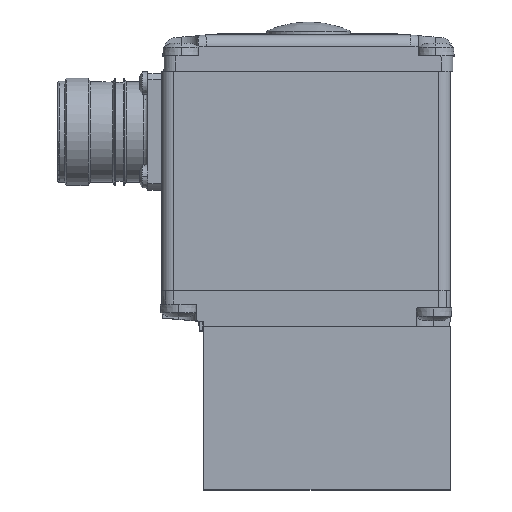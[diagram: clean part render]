
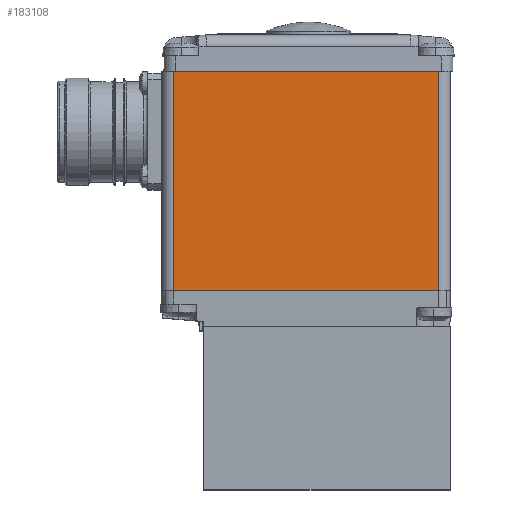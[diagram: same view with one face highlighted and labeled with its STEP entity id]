
A CAD part, top view. The second image highlights one B-rep face of the part: STEP entity #183108.
In plain terms, the highlighted planar face has unit normal (0, 0, 1).
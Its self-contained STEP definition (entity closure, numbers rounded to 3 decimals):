
#2480 = VERTEX_POINT ( 'NONE', #54425 ) ;
#3549 = LINE ( 'NONE', #109128, #82305 ) ;
#17185 = DIRECTION ( 'NONE',  ( -1., 0., 0. ) ) ;
#28622 = ORIENTED_EDGE ( 'NONE', *, *, #60435, .F. ) ;
#31355 = FACE_OUTER_BOUND ( 'NONE', #42933, .T. ) ;
#33002 = CARTESIAN_POINT ( 'NONE',  ( -2.5, 25.3, 17.65 ) ) ;
#36058 = CARTESIAN_POINT ( 'NONE',  ( -59.5, 72.3, 17.65 ) ) ;
#42698 = LINE ( 'NONE', #107771, #126537 ) ;
#42933 = EDGE_LOOP ( 'NONE', ( #28622, #168672, #110241, #158465 ) ) ;
#47148 = DIRECTION ( 'NONE',  ( 0., -1., 0. ) ) ;
#50390 = CARTESIAN_POINT ( 'NONE',  ( -59.5, 25.3, 17.65 ) ) ;
#51260 = PLANE ( 'NONE',  #124068 ) ;
#51932 = DIRECTION ( 'NONE',  ( 1., 0., 0. ) ) ;
#54425 = CARTESIAN_POINT ( 'NONE',  ( -59.5, 72.3, 17.65 ) ) ;
#60435 = EDGE_CURVE ( 'NONE', #195137, #120860, #196035, .T. ) ;
#75396 = DIRECTION ( 'NONE',  ( 0., -1., 0. ) ) ;
#79356 = VERTEX_POINT ( 'NONE', #84965 ) ;
#82305 = VECTOR ( 'NONE', #47148, 1000. ) ;
#84965 = CARTESIAN_POINT ( 'NONE',  ( -2.5, 72.3, 17.65 ) ) ;
#86314 = CARTESIAN_POINT ( 'NONE',  ( -59.5, 25.3, 17.65 ) ) ;
#88600 = EDGE_CURVE ( 'NONE', #79356, #195137, #42698, .T. ) ;
#88944 = VECTOR ( 'NONE', #17185, 1000. ) ;
#107771 = CARTESIAN_POINT ( 'NONE',  ( -2.5, 72.3, 17.65 ) ) ;
#109128 = CARTESIAN_POINT ( 'NONE',  ( -59.5, 72.3, 17.65 ) ) ;
#110241 = ORIENTED_EDGE ( 'NONE', *, *, #168904, .T. ) ;
#120860 = VERTEX_POINT ( 'NONE', #86314 ) ;
#124068 = AXIS2_PLACEMENT_3D ( 'NONE', #36058, #146239, #51932 ) ;
#126537 = VECTOR ( 'NONE', #75396, 1000. ) ;
#127931 = EDGE_CURVE ( 'NONE', #2480, #120860, #3549, .T. ) ;
#129651 = DIRECTION ( 'NONE',  ( -1., 0., 0. ) ) ;
#143232 = CARTESIAN_POINT ( 'NONE',  ( -59.5, 72.3, 17.65 ) ) ;
#146239 = DIRECTION ( 'NONE',  ( 0., 0., -1. ) ) ;
#154247 = VECTOR ( 'NONE', #129651, 1000. ) ;
#158465 = ORIENTED_EDGE ( 'NONE', *, *, #127931, .T. ) ;
#168672 = ORIENTED_EDGE ( 'NONE', *, *, #88600, .F. ) ;
#168904 = EDGE_CURVE ( 'NONE', #79356, #2480, #182423, .T. ) ;
#182423 = LINE ( 'NONE', #143232, #88944 ) ;
#183108 = ADVANCED_FACE ( 'NONE', ( #31355 ), #51260, .F. ) ;
#195137 = VERTEX_POINT ( 'NONE', #33002 ) ;
#196035 = LINE ( 'NONE', #50390, #154247 ) ;
